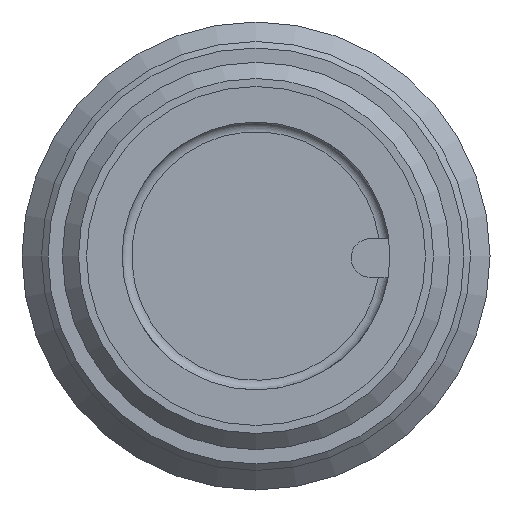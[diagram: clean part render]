
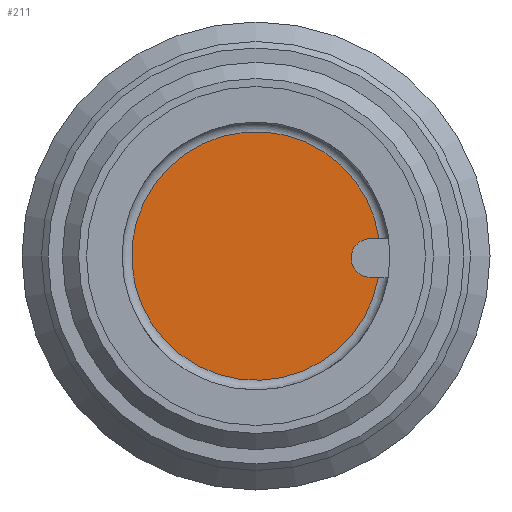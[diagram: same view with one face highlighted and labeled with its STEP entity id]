
A CAD part, front view. The second image highlights one B-rep face of the part: STEP entity #211.
In plain terms, the highlighted planar face has unit normal (0, -1, 0).
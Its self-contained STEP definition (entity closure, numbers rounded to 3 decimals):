
#32 = EDGE_LOOP ( 'NONE', ( #559, #504, #514, #703 ) ) ;
#46 = AXIS2_PLACEMENT_3D ( 'NONE', #736, #611, #221 ) ;
#47 = VECTOR ( 'NONE', #335, 1000. ) ;
#48 = VERTEX_POINT ( 'NONE', #183 ) ;
#95 = AXIS2_PLACEMENT_3D ( 'NONE', #98, #619, #431 ) ;
#98 = CARTESIAN_POINT ( 'NONE',  ( 3.549, 7.4, -0.06 ) ) ;
#109 = VERTEX_POINT ( 'NONE', #326 ) ;
#111 = DIRECTION ( 'NONE',  ( 1., 0., -0.017 ) ) ;
#183 = CARTESIAN_POINT ( 'NONE',  ( 3.813, 7.4, 0.536 ) ) ;
#186 = VECTOR ( 'NONE', #111, 1000. ) ;
#211 = ADVANCED_FACE ( 'NONE', ( #576 ), #487, .T. ) ;
#215 = AXIS2_PLACEMENT_3D ( 'NONE', #372, #629, #758 ) ;
#221 = DIRECTION ( 'NONE',  ( 0.985, 0., 0.174 ) ) ;
#231 = CARTESIAN_POINT ( 'NONE',  ( 3.792, 7.4, -0.664 ) ) ;
#326 = CARTESIAN_POINT ( 'NONE',  ( 3.539, 7.4, -0.66 ) ) ;
#335 = DIRECTION ( 'NONE',  ( -1., 0., 0.017 ) ) ;
#347 = LINE ( 'NONE', #468, #47 ) ;
#365 = CIRCLE ( 'NONE', #215, 3.85 ) ;
#372 = CARTESIAN_POINT ( 'NONE',  ( 0., 7.4, 0. ) ) ;
#431 = DIRECTION ( 'NONE',  ( 0.985, 0., 0.174 ) ) ;
#445 = EDGE_CURVE ( 'NONE', #109, #684, #667, .T. ) ;
#468 = CARTESIAN_POINT ( 'NONE',  ( -1.371, 7.4, -0.577 ) ) ;
#487 = PLANE ( 'NONE',  #46 ) ;
#501 = EDGE_CURVE ( 'NONE', #542, #48, #365, .T. ) ;
#504 = ORIENTED_EDGE ( 'NONE', *, *, #526, .T. ) ;
#514 = ORIENTED_EDGE ( 'NONE', *, *, #501, .F. ) ;
#526 = EDGE_CURVE ( 'NONE', #684, #48, #800, .T. ) ;
#542 = VERTEX_POINT ( 'NONE', #231 ) ;
#559 = ORIENTED_EDGE ( 'NONE', *, *, #445, .T. ) ;
#576 = FACE_OUTER_BOUND ( 'NONE', #32, .T. ) ;
#611 = DIRECTION ( 'NONE',  ( 0., -1., 0. ) ) ;
#619 = DIRECTION ( 'NONE',  ( 0., 1., 0. ) ) ;
#629 = DIRECTION ( 'NONE',  ( 0., 1., 0. ) ) ;
#643 = EDGE_CURVE ( 'NONE', #542, #109, #347, .T. ) ;
#658 = CARTESIAN_POINT ( 'NONE',  ( 3.56, 7.4, 0.54 ) ) ;
#667 = CIRCLE ( 'NONE', #95, 0.6 ) ;
#684 = VERTEX_POINT ( 'NONE', #658 ) ;
#703 = ORIENTED_EDGE ( 'NONE', *, *, #643, .T. ) ;
#736 = CARTESIAN_POINT ( 'NONE',  ( -1.384, 7.4, -1.338 ) ) ;
#758 = DIRECTION ( 'NONE',  ( 0.985, 0., 0.174 ) ) ;
#800 = LINE ( 'NONE', #816, #186 ) ;
#816 = CARTESIAN_POINT ( 'NONE',  ( -1.351, 7.4, 0.623 ) ) ;
